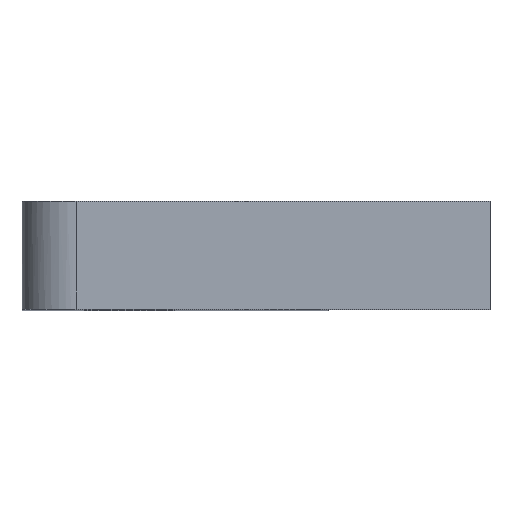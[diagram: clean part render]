
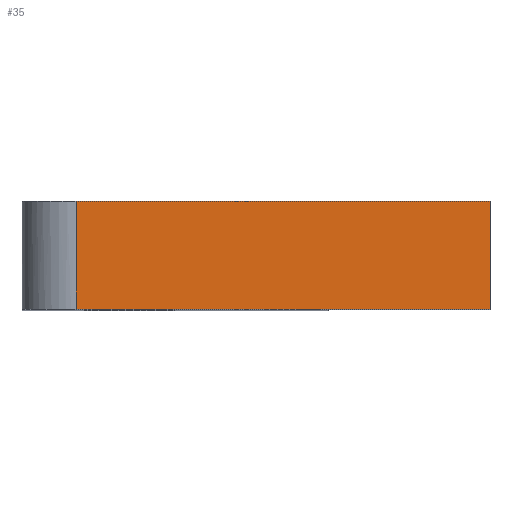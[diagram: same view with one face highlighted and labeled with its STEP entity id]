
A CAD part, top view. The second image highlights one B-rep face of the part: STEP entity #35.
In plain terms, the highlighted free-form (B-spline) face has degree [2, 1] with [3, 2] control points.
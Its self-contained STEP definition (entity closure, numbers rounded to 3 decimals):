
#35=ADVANCED_FACE('',(#54),#697,.T.);
#54=FACE_OUTER_BOUND('',#73,.T.);
#73=EDGE_LOOP('',(#109,#110,#111,#112));
#109=ORIENTED_EDGE('',*,*,#532,.T.);
#110=ORIENTED_EDGE('',*,*,#533,.T.);
#111=ORIENTED_EDGE('',*,*,#534,.T.);
#112=ORIENTED_EDGE('',*,*,#530,.F.);
#208=PCURVE('',#696,#310);
#211=PCURVE('',#697,#313);
#212=PCURVE('',#697,#314);
#213=PCURVE('',#697,#315);
#214=PCURVE('',#697,#316);
#218=PCURVE('',#698,#320);
#256=PCURVE('',#692,#358);
#271=PCURVE('',#693,#373);
#310=DEFINITIONAL_REPRESENTATION('',(#412),#1414);
#313=DEFINITIONAL_REPRESENTATION('',(#415),#1414);
#314=DEFINITIONAL_REPRESENTATION('',(#416),#1414);
#315=DEFINITIONAL_REPRESENTATION('',(#417),#1414);
#316=DEFINITIONAL_REPRESENTATION('',(#418),#1414);
#320=DEFINITIONAL_REPRESENTATION('',(#422),#1414);
#358=DEFINITIONAL_REPRESENTATION('',(#621),#1414);
#373=DEFINITIONAL_REPRESENTATION('',(#640),#1414);
#412=B_SPLINE_CURVE_WITH_KNOTS('',1,(#1016,#1017),.UNSPECIFIED.,.F.,.F.,
(2,2),(0.,6.),.UNSPECIFIED.);
#415=B_SPLINE_CURVE_WITH_KNOTS('',1,(#1028,#1029),.UNSPECIFIED.,.F.,.F.,
(2,2),(-113.185,-87.531),.UNSPECIFIED.);
#416=B_SPLINE_CURVE_WITH_KNOTS('',1,(#1032,#1033),.UNSPECIFIED.,.F.,.F.,
(2,2),(0.,6.),.UNSPECIFIED.);
#417=B_SPLINE_CURVE_WITH_KNOTS('',1,(#1037,#1038),.UNSPECIFIED.,.F.,.F.,
(2,2),(87.531,113.185),.UNSPECIFIED.);
#418=B_SPLINE_CURVE_WITH_KNOTS('',1,(#1039,#1040),.UNSPECIFIED.,.F.,.F.,
(2,2),(0.,6.),.UNSPECIFIED.);
#422=B_SPLINE_CURVE_WITH_KNOTS('',1,(#1055,#1056),.UNSPECIFIED.,.F.,.F.,
(2,2),(0.,6.),.UNSPECIFIED.);
#479=SURFACE_CURVE('',#581,(#208,#214),.PCURVE_S1.);
#481=SURFACE_CURVE('',#583,(#211,#256),.PCURVE_S1.);
#482=SURFACE_CURVE('',#584,(#212,#218),.PCURVE_S1.);
#483=SURFACE_CURVE('',#585,(#213,#271),.PCURVE_S1.);
#530=EDGE_CURVE('',#664,#665,#479,.T.);
#532=EDGE_CURVE('',#664,#666,#481,.T.);
#533=EDGE_CURVE('',#666,#667,#482,.T.);
#534=EDGE_CURVE('',#667,#665,#483,.T.);
#581=(
BOUNDED_CURVE()
B_SPLINE_CURVE(1,(#1014,#1015),.UNSPECIFIED.,.F.,.F.)
B_SPLINE_CURVE_WITH_KNOTS((2,2),(0.,6.),.UNSPECIFIED.)
CURVE()
GEOMETRIC_REPRESENTATION_ITEM()
RATIONAL_B_SPLINE_CURVE((1.,1.))
REPRESENTATION_ITEM('')
);
#583=(
BOUNDED_CURVE()
B_SPLINE_CURVE(2,(#1025,#1026,#1027),.UNSPECIFIED.,.F.,.F.)
B_SPLINE_CURVE_WITH_KNOTS((3,3),(-113.185,-87.531),
 .UNSPECIFIED.)
CURVE()
GEOMETRIC_REPRESENTATION_ITEM()
RATIONAL_B_SPLINE_CURVE((1.,1.,1.))
REPRESENTATION_ITEM('')
);
#584=(
BOUNDED_CURVE()
B_SPLINE_CURVE(1,(#1030,#1031),.UNSPECIFIED.,.F.,.F.)
B_SPLINE_CURVE_WITH_KNOTS((2,2),(0.,6.),.UNSPECIFIED.)
CURVE()
GEOMETRIC_REPRESENTATION_ITEM()
RATIONAL_B_SPLINE_CURVE((1.,1.))
REPRESENTATION_ITEM('')
);
#585=(
BOUNDED_CURVE()
B_SPLINE_CURVE(2,(#1034,#1035,#1036),.UNSPECIFIED.,.F.,.F.)
B_SPLINE_CURVE_WITH_KNOTS((3,3),(87.531,113.185),
 .UNSPECIFIED.)
CURVE()
GEOMETRIC_REPRESENTATION_ITEM()
RATIONAL_B_SPLINE_CURVE((1.,1.,1.))
REPRESENTATION_ITEM('')
);
#621=(
BOUNDED_CURVE()
B_SPLINE_CURVE(2,(#1222,#1223,#1224),.UNSPECIFIED.,.F.,.F.)
B_SPLINE_CURVE_WITH_KNOTS((3,3),(-113.185,-87.531),
 .UNSPECIFIED.)
CURVE()
GEOMETRIC_REPRESENTATION_ITEM()
RATIONAL_B_SPLINE_CURVE((1.,1.,1.))
REPRESENTATION_ITEM('')
);
#640=(
BOUNDED_CURVE()
B_SPLINE_CURVE(2,(#1303,#1304,#1305),.UNSPECIFIED.,.F.,.F.)
B_SPLINE_CURVE_WITH_KNOTS((3,3),(87.531,113.185),
 .UNSPECIFIED.)
CURVE()
GEOMETRIC_REPRESENTATION_ITEM()
RATIONAL_B_SPLINE_CURVE((1.,1.,1.))
REPRESENTATION_ITEM('')
);
#664=VERTEX_POINT('',#947);
#665=VERTEX_POINT('',#948);
#666=VERTEX_POINT('',#949);
#667=VERTEX_POINT('',#950);
#692=PLANE('',#731);
#693=PLANE('',#732);
#696=(
BOUNDED_SURFACE()
B_SPLINE_SURFACE(2,1,((#753,#754),(#755,#756),(#757,#758)),.UNSPECIFIED.,
 .F.,.F.,.F.)
B_SPLINE_SURFACE_WITH_KNOTS((3,3),(2,2),(-117.898,-113.185),
(0.,6.),.UNSPECIFIED.)
GEOMETRIC_REPRESENTATION_ITEM()
RATIONAL_B_SPLINE_SURFACE(((1.,1.),(0.707,0.707),
(1.,1.)))
REPRESENTATION_ITEM('')
SURFACE()
);
#697=(
BOUNDED_SURFACE()
B_SPLINE_SURFACE(2,1,((#759,#760),(#761,#762),(#763,#764)),.UNSPECIFIED.,
 .F.,.F.,.F.)
B_SPLINE_SURFACE_WITH_KNOTS((3,3),(2,2),(-113.185,-87.531),
(0.,6.),.UNSPECIFIED.)
GEOMETRIC_REPRESENTATION_ITEM()
RATIONAL_B_SPLINE_SURFACE(((1.,1.),(1.,1.),(1.,1.)))
REPRESENTATION_ITEM('')
SURFACE()
);
#698=(
BOUNDED_SURFACE()
B_SPLINE_SURFACE(2,1,((#765,#766),(#767,#768),(#769,#770)),.UNSPECIFIED.,
 .F.,.F.,.F.)
B_SPLINE_SURFACE_WITH_KNOTS((3,3),(2,2),(-87.531,-65.531),
(0.,6.),.UNSPECIFIED.)
GEOMETRIC_REPRESENTATION_ITEM()
RATIONAL_B_SPLINE_SURFACE(((1.,1.),(1.,1.),(1.,1.)))
REPRESENTATION_ITEM('')
SURFACE()
);
#731=AXIS2_PLACEMENT_3D('',#867,#736,$);
#732=AXIS2_PLACEMENT_3D('',#868,#737,$);
#736=DIRECTION('',(0.,-1.,0.));
#737=DIRECTION('',(0.,1.,0.));
#753=CARTESIAN_POINT('',(-726.,29.,18.));
#754=CARTESIAN_POINT('',(-726.,35.,18.));
#755=CARTESIAN_POINT('',(-726.,29.,21.));
#756=CARTESIAN_POINT('',(-726.,35.,21.));
#757=CARTESIAN_POINT('',(-723.,29.,21.));
#758=CARTESIAN_POINT('',(-723.,35.,21.));
#759=CARTESIAN_POINT('',(-723.,29.,21.));
#760=CARTESIAN_POINT('',(-723.,35.,21.));
#761=CARTESIAN_POINT('',(-711.5,29.,21.));
#762=CARTESIAN_POINT('',(-711.5,35.,21.));
#763=CARTESIAN_POINT('',(-700.,29.,21.));
#764=CARTESIAN_POINT('',(-700.,35.,21.));
#765=CARTESIAN_POINT('',(-700.,29.,21.));
#766=CARTESIAN_POINT('',(-700.,35.,21.));
#767=CARTESIAN_POINT('',(-700.,29.,10.));
#768=CARTESIAN_POINT('',(-700.,35.,10.));
#769=CARTESIAN_POINT('',(-700.,29.,-1.));
#770=CARTESIAN_POINT('',(-700.,35.,-1.));
#867=CARTESIAN_POINT('',(-696.75,29.,-38.625));
#868=CARTESIAN_POINT('',(-696.75,35.,-38.625));
#947=CARTESIAN_POINT('',(-723.,29.,21.));
#948=CARTESIAN_POINT('',(-723.,35.,21.));
#949=CARTESIAN_POINT('',(-700.,29.,21.));
#950=CARTESIAN_POINT('',(-700.,35.,21.));
#1014=CARTESIAN_POINT('',(-723.,29.,21.));
#1015=CARTESIAN_POINT('',(-723.,35.,21.));
#1016=CARTESIAN_POINT('',(-113.185,0.));
#1017=CARTESIAN_POINT('',(-113.185,6.));
#1025=CARTESIAN_POINT('',(-723.,29.,21.));
#1026=CARTESIAN_POINT('',(-711.5,29.,21.));
#1027=CARTESIAN_POINT('',(-700.,29.,21.));
#1028=CARTESIAN_POINT('',(-113.185,0.));
#1029=CARTESIAN_POINT('',(-87.531,0.));
#1030=CARTESIAN_POINT('',(-700.,29.,21.));
#1031=CARTESIAN_POINT('',(-700.,35.,21.));
#1032=CARTESIAN_POINT('',(-87.531,0.));
#1033=CARTESIAN_POINT('',(-87.531,6.));
#1034=CARTESIAN_POINT('',(-700.,35.,21.));
#1035=CARTESIAN_POINT('',(-711.5,35.,21.));
#1036=CARTESIAN_POINT('',(-723.,35.,21.));
#1037=CARTESIAN_POINT('',(-87.531,6.));
#1038=CARTESIAN_POINT('',(-113.185,6.));
#1039=CARTESIAN_POINT('',(-113.185,0.));
#1040=CARTESIAN_POINT('',(-113.185,6.));
#1055=CARTESIAN_POINT('',(-87.531,0.));
#1056=CARTESIAN_POINT('',(-87.531,6.));
#1222=CARTESIAN_POINT('',(53.,0.));
#1223=CARTESIAN_POINT('',(53.,-11.5));
#1224=CARTESIAN_POINT('',(53.,-23.));
#1303=CARTESIAN_POINT('',(-23.,53.));
#1304=CARTESIAN_POINT('',(-11.5,53.));
#1305=CARTESIAN_POINT('',(0.,53.));
#1414=(
GEOMETRIC_REPRESENTATION_CONTEXT(2)
PARAMETRIC_REPRESENTATION_CONTEXT()
REPRESENTATION_CONTEXT('pspace','')
);
